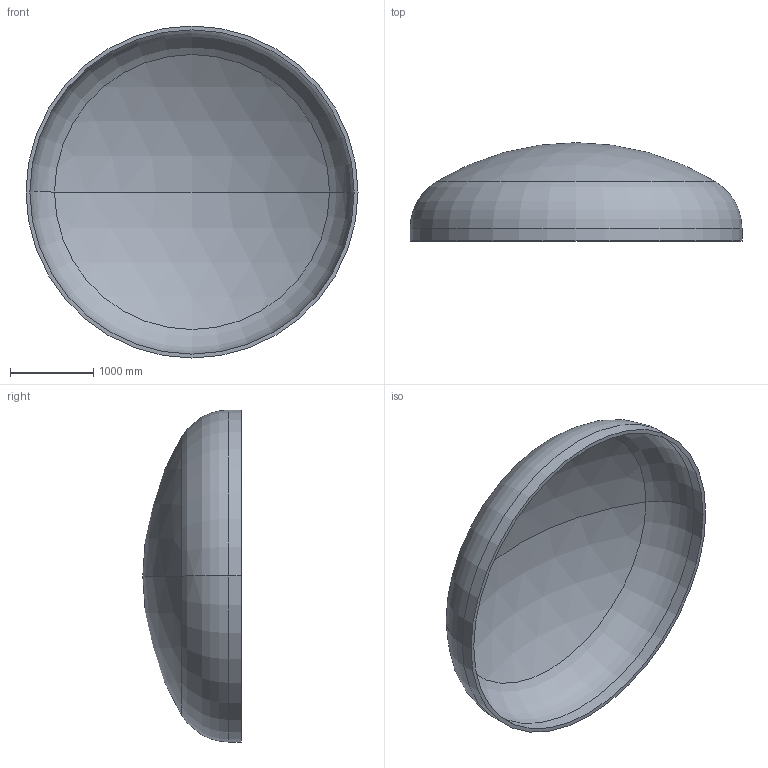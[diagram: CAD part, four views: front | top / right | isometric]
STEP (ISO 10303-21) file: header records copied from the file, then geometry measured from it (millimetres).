
FILE_DESCRIPTION (( 'STEP AP203' ), '1' );
FILE_NAME ('DIN 28013 Korbbogenform_-_Boden DIN 28013 - 4000 x 150 - I - s=47.step', '2016-07-01T22:27:40', ( '' ), ( '' ), 'SwSTEP 2.0', 'SolidWorks 2013', '' );
FILE_SCHEMA (( 'CONFIG_CONTROL_DESIGN' ));
Length unit declared in the file: millimetre
Products named in the file (1): DIN 28013 Korbbogenform_-_Boden DIN 28013 - 4000 x 150 - I - s=47
Bounding box: 4000 x 1185.22 x 4000 mm (x, y, z)
Volume: 892683833.5 mm3; surface area: 38574838.7 mm2
Topology: 1 solids, 1 shells, 13 faces, 24 edges, 14 vertices
Faces by surface type: torus 4, cylinder 4, sphere 4, plane 1
Entity records: 407 total; most frequent: DIRECTION 72, CARTESIAN_POINT 52, ORIENTED_EDGE 48, AXIS2_PLACEMENT_3D 34, EDGE_CURVE 24, CIRCLE 20, VERTEX_POINT 14, EDGE_LOOP 14
